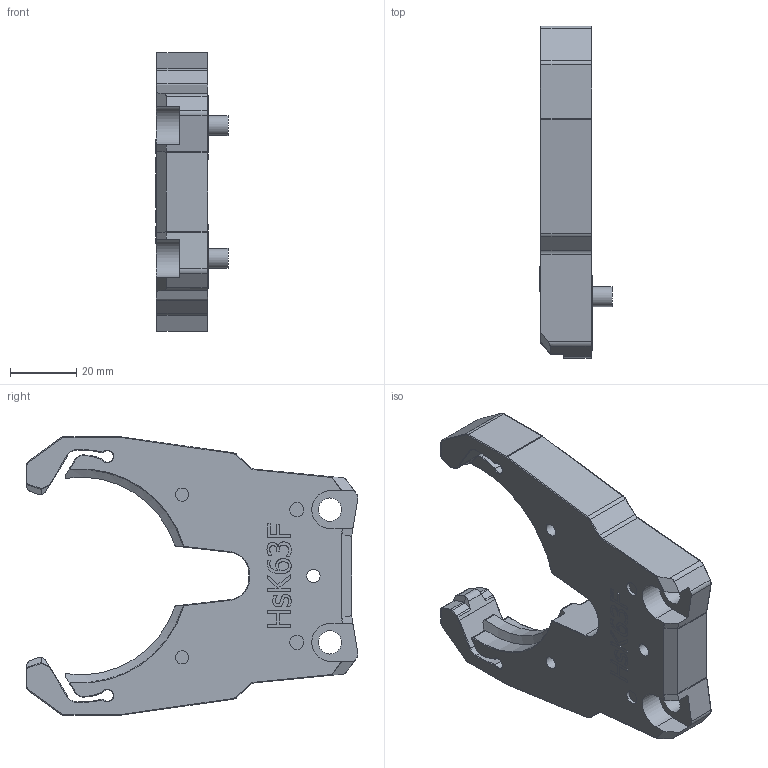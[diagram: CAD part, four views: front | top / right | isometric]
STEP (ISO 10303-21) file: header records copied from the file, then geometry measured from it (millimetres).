
FILE_DESCRIPTION(/* description */ (''),/* implementation_level */ '2;1');
FILE_NAME(/* name */ 'HSK63F.stp',/* time_stamp */ '2025-06-16T10:25:01+03:00',/* author */ ('User'),/* organization */ (''),/* preprocessor_version */ 'ST-DEVELOPER v19.2',/* originating_system */ 'Autodesk Inventor 2024',/* authorisation */ '');
FILE_SCHEMA (('AUTOMOTIVE_DESIGN { 1 0 10303 214 3 1 1 }'));
Length unit declared in the file: millimetre
Products named in the file (1): BT-40
Bounding box: 21.7 x 99.89 x 84 mm (x, y, z)
Volume: 63128.4 mm3; surface area: 18389.8 mm2
Topology: 1 solids, 1 shells, 461 faces, 1189 edges, 748 vertices
Faces by surface type: cylinder 163, plane 161, torus 74, bspline 59, sphere 4
Full cylindrical faces by diameter (mm): 4 x5, 4.3 x2, 6 x2, 7 x2
Entity records: 14746 total; most frequent: CARTESIAN_POINT 3562, ORIENTED_EDGE 2378, DIRECTION 2261, EDGE_CURVE 1189, AXIS2_PLACEMENT_3D 811, VERTEX_POINT 748, LINE 639, VECTOR 639
